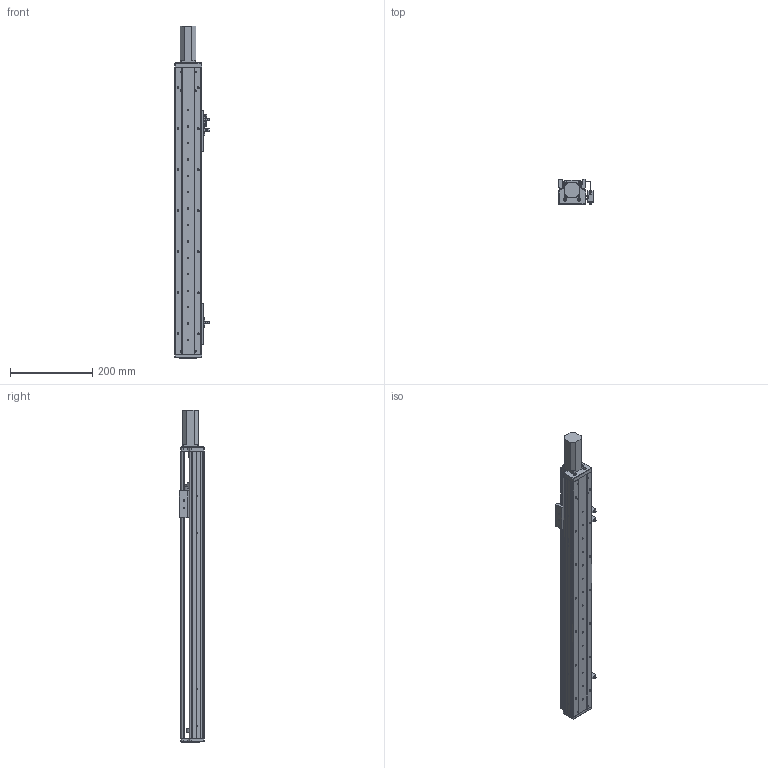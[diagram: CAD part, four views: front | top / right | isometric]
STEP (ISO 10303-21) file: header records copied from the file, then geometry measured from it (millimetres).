
FILE_DESCRIPTION (( 'STEP AP203' ), '1' );
FILE_NAME ('RY60-L1210-300-MK.SLDASM_500.step', '2021-02-20T01:55:57', ( '' ), ( '' ), 'SwSTEP 2.0', 'SolidWorks 2012', '' );
FILE_SCHEMA (( 'CONFIG_CONTROL_DESIGN' ));
Length unit declared in the file: millimetre
Products named in the file (13): RY60-300倰第菁釱-MK_500; RY60前盖板100(PCD46-M4); RY60臏賑輸; 672嫖萇羲壽假蚾釱; RY60-300倰第裔啣-MK_500; RY60綴裔啣; SFN1210螺母(没线割）; RY60-L1210-300-MK.SLDASM_500; 滅袉蝶18-10; RY80俋离覜茼え; 滅袉蝶18-20; 侂狟100W; 覜茼ん672
Assembly tree (17 placements, depth 2):
  RY60-L1210-300-MK.SLDASM_500
    RY60-300倰第菁釱-MK_500
    RY60臏賑輸
    RY60-300倰第裔啣-MK_500
    RY60前盖板100(PCD46-M4)
    672嫖萇羲壽假蚾釱  x2
    覜茼ん672  x3
    RY80俋离覜茼え
    侂狟100W
    滅袉蝶18-20  x2
    滅袉蝶18-10  x2
    RY60綴裔啣
    SFN1210螺母(没线割）
Bounding box: 83.7 x 61 x 809 mm (x, y, z)
Volume: 932626 mm3; surface area: 451273.5 mm2
Topology: 18 solids, 18 shells, 1150 faces, 3245 edges, 2098 vertices
Faces by surface type: plane 549, cylinder 527, cone 65, bspline 9
Entity records: 37525 total; most frequent: CARTESIAN_POINT 9012, ORIENTED_EDGE 5750, DIRECTION 5536, EDGE_CURVE 2875, AXIS2_PLACEMENT_3D 1920, VERTEX_POINT 1882, VECTOR 1696, LINE 1696
